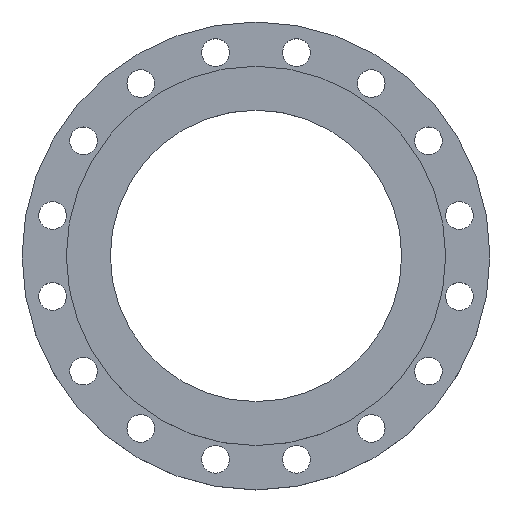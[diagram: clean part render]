
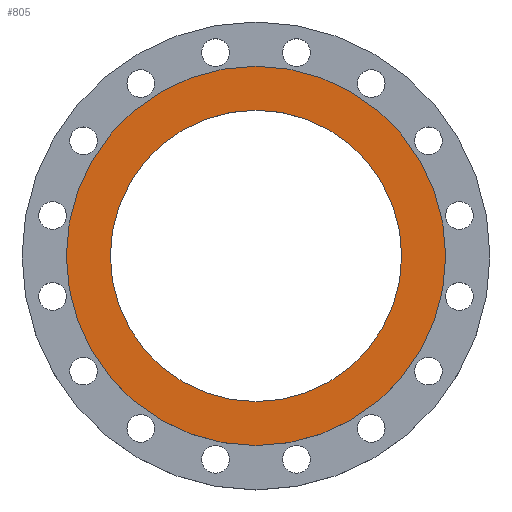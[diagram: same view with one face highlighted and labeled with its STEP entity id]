
A CAD part, top view. The second image highlights one B-rep face of the part: STEP entity #805.
In plain terms, the highlighted planar face has unit normal (0, 0, 1).
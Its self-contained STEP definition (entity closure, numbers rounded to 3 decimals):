
#57 = CARTESIAN_POINT ( 'NONE',  ( -267.5, 0., 42. ) ) ;
#59 = CARTESIAN_POINT ( 'NONE',  ( -205.5, 0., 42. ) ) ;
#247 = CIRCLE ( 'NONE', #866, 267.5 ) ;
#325 = DIRECTION ( 'NONE',  ( 0., 0., -1. ) ) ;
#337 = DIRECTION ( 'NONE',  ( -1., 0., 0. ) ) ;
#450 = EDGE_LOOP ( 'NONE', ( #471, #468 ) ) ;
#468 = ORIENTED_EDGE ( 'NONE', *, *, #964, .T. ) ;
#471 = ORIENTED_EDGE ( 'NONE', *, *, #1506, .T. ) ;
#473 = ORIENTED_EDGE ( 'NONE', *, *, #806, .F. ) ;
#477 = ORIENTED_EDGE ( 'NONE', *, *, #788, .F. ) ;
#496 = EDGE_LOOP ( 'NONE', ( #477, #473 ) ) ;
#535 = DIRECTION ( 'NONE',  ( -1., 0., 0. ) ) ;
#571 = VERTEX_POINT ( 'NONE', #59 ) ;
#572 = VERTEX_POINT ( 'NONE', #57 ) ;
#667 = CARTESIAN_POINT ( 'NONE',  ( 0., 0., 42. ) ) ;
#673 = PLANE ( 'NONE',  #684 ) ;
#684 = AXIS2_PLACEMENT_3D ( 'NONE', #1274, #1560, #535 ) ;
#688 = CIRCLE ( 'NONE', #703, 267.5 ) ;
#703 = AXIS2_PLACEMENT_3D ( 'NONE', #1113, #1485, #337 ) ;
#780 = CARTESIAN_POINT ( 'NONE',  ( 0., 0., 42. ) ) ;
#788 = EDGE_CURVE ( 'NONE', #572, #1050, #247, .T. ) ;
#805 = ADVANCED_FACE ( 'NONE', ( #1346, #1609 ), #673, .F. ) ;
#806 = EDGE_CURVE ( 'NONE', #1050, #572, #688, .T. ) ;
#866 = AXIS2_PLACEMENT_3D ( 'NONE', #1480, #325, #926 ) ;
#878 = CIRCLE ( 'NONE', #880, 205.5 ) ;
#880 = AXIS2_PLACEMENT_3D ( 'NONE', #780, #1323, #1591 ) ;
#926 = DIRECTION ( 'NONE',  ( -1., 0., 0. ) ) ;
#964 = EDGE_CURVE ( 'NONE', #1159, #571, #878, .T. ) ;
#1050 = VERTEX_POINT ( 'NONE', #1332 ) ;
#1113 = CARTESIAN_POINT ( 'NONE',  ( 0., 0., 42. ) ) ;
#1159 = VERTEX_POINT ( 'NONE', #1608 ) ;
#1268 = DIRECTION ( 'NONE',  ( 0., 0., -1. ) ) ;
#1274 = CARTESIAN_POINT ( 'NONE',  ( 205.5, 0., 42. ) ) ;
#1275 = CIRCLE ( 'NONE', #1279, 205.5 ) ;
#1279 = AXIS2_PLACEMENT_3D ( 'NONE', #667, #1268, #1558 ) ;
#1323 = DIRECTION ( 'NONE',  ( 0., 0., -1. ) ) ;
#1332 = CARTESIAN_POINT ( 'NONE',  ( 267.5, 0., 42. ) ) ;
#1346 = FACE_OUTER_BOUND ( 'NONE', #496, .T. ) ;
#1480 = CARTESIAN_POINT ( 'NONE',  ( 0., 0., 42. ) ) ;
#1485 = DIRECTION ( 'NONE',  ( 0., 0., -1. ) ) ;
#1506 = EDGE_CURVE ( 'NONE', #571, #1159, #1275, .T. ) ;
#1558 = DIRECTION ( 'NONE',  ( -1., 0., 0. ) ) ;
#1560 = DIRECTION ( 'NONE',  ( 0., 0., -1. ) ) ;
#1591 = DIRECTION ( 'NONE',  ( -1., 0., 0. ) ) ;
#1608 = CARTESIAN_POINT ( 'NONE',  ( 205.5, 0., 42. ) ) ;
#1609 = FACE_BOUND ( 'NONE', #450, .T. ) ;
